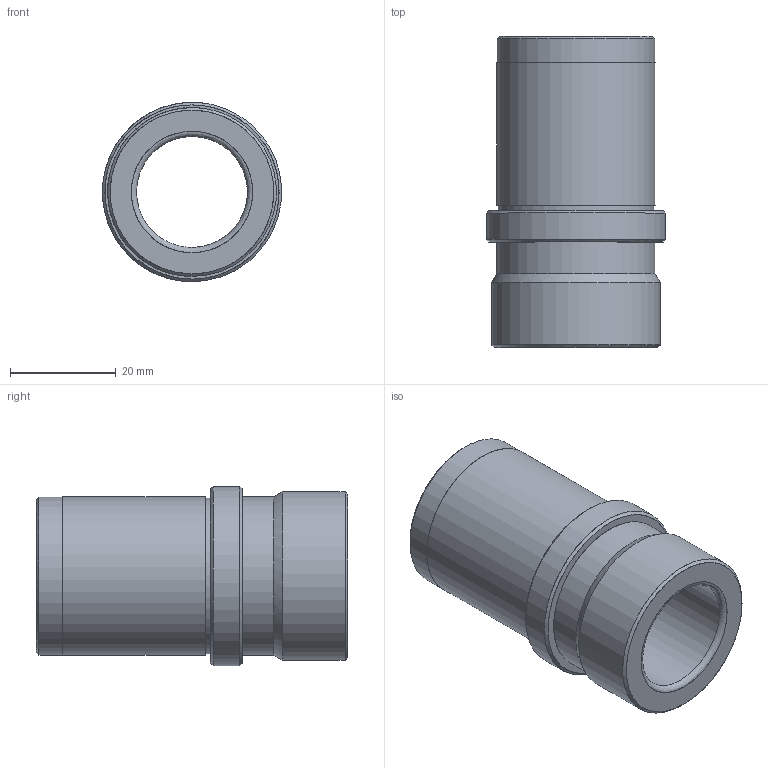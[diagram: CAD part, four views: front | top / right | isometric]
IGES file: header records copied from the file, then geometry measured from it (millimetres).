
Start section: Missler Software BP 521, 31674 Labege Cedex, France Tel   : +33 (0)5 61 00 03 00 Fax   : +33 (0)5 61 00 03 03 Email : sup.topsolid@topsolid.com
Global section: file name: C:\Documents and Settings\EXPER\Desktop\Cuma\24 03 2009\D27\D27_15X59X33.igs; native system: TopSolid v605250 Missler Software; preprocessor: IGES preprocessor v100000; date: 030102.053645; units: millimetre
Bounding box: 33.95 x 59 x 34 mm (x, y, z)
Surface area: 10744.4 mm2 (no closed solid volume)
Topology: 0 solids, 0 shells, 20 faces, 432 edges, 420 vertices
Faces by surface type: bspline 20
